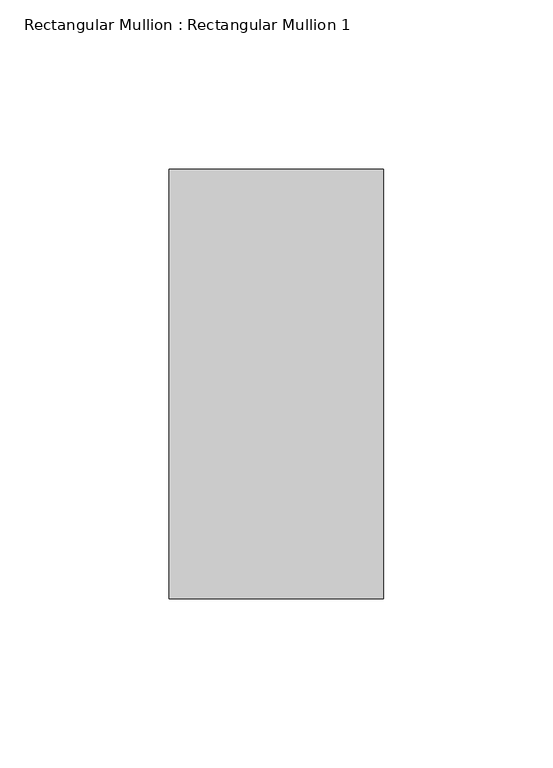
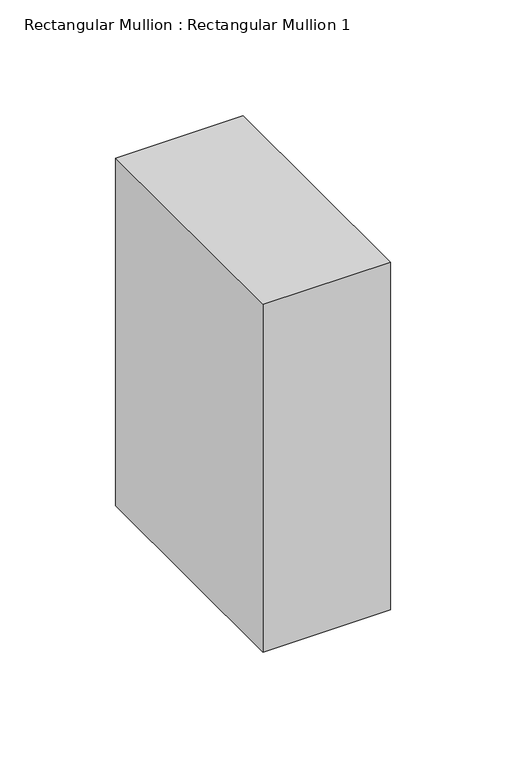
"""IFC4 building model written with IfcOpenShell, lengths in millimetres: member geometry, Rectangular Mullion : Rectangular Mullion 1."""

from ifc_helpers import new_model, si_unit, frame, origin, place, context, project, spatial, polyline, outline, extrude, source, transform, mapped, element, save


def rectangular_mullion_rectangular_mullion_1_f4f6b5f9(model_context):
    return source(origin(), model_context, "Body", "SweptSolid", [
        extrude(outline(polyline([(0.0, 63.5), (0.0, -63.5), (-63.5, -63.5), (-63.5, 63.5), (0.0, 63.5)])), frame((0.0, 0.0, -183.1666665), z_axis=(0.0, 0.0, 1.0), x_axis=(1.0, 0.0, 0.0)), (0.0, 0.0, 1.0), 183.1666665),
    ])


if __name__ == "__main__":
    model = new_model("IFC4")
    model_context = context("Model", 3, world=origin())
    ifc_project = project(units=[si_unit("LENGTHUNIT", "METRE", prefix="MILLI")], contexts=[model_context])
    site = spatial("IfcSite", under=ifc_project)
    building = spatial("IfcBuilding", under=site)
    placement = place(None, origin())
    rectangular_mullion_rectangular_mullion_1_shape = rectangular_mullion_rectangular_mullion_1_f4f6b5f9(model_context)
    element("IfcMember", 1, ObjectType="Rectangular Mullion : Rectangular Mullion 1", at=placement, inside=building, context=model_context, shape_type="MappedRepresentation", body=[
        mapped(rectangular_mullion_rectangular_mullion_1_shape, transform((0.0, 0.0, 0.0), x_axis=(1.0, 0.0, 0.0), y_axis=(0.0, 1.0, 0.0), z_axis=(0.0, 0.0, 1.0))),
    ])
    save(model, "model.ifc")
